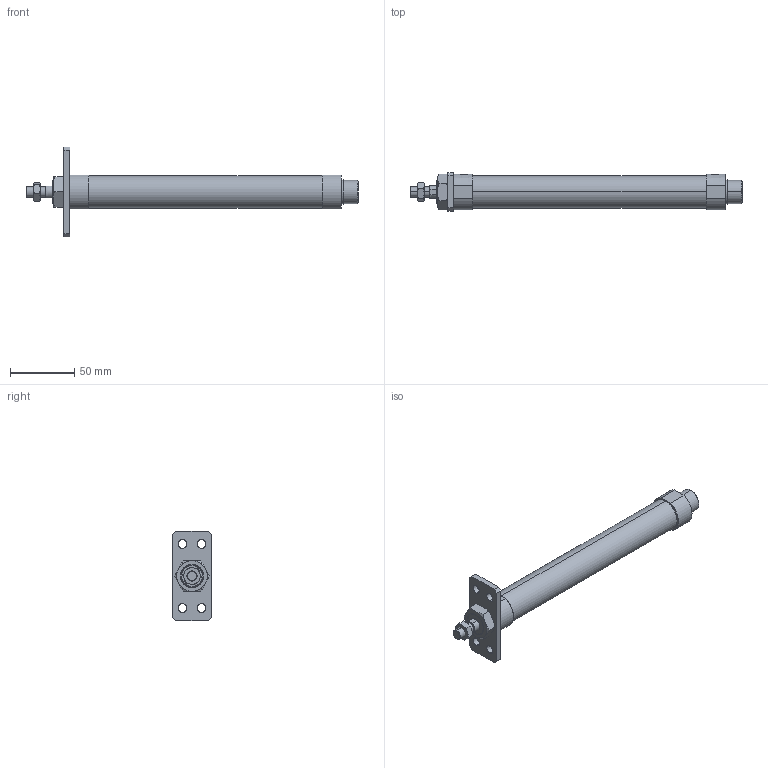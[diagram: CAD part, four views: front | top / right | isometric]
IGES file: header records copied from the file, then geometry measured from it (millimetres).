
Start section: SolidWorks IGES file using analytic representation for surfaces
Global section: file name: C:\Users\Toshiba\Desktop\J#2-20-150-A.IGS; native system: SolidWorks 2014; preprocessor: SolidWorks 2014; author: Toshiba; date: 160308.150528; units: millimetre
Bounding box: 259 x 30 x 70 mm (x, y, z)
Surface area: 28067 mm2 (no closed solid volume)
Topology: 0 solids, 0 shells, 112 faces, 2028 edges, 2028 vertices
Faces by surface type: bspline 70, revolution 42
